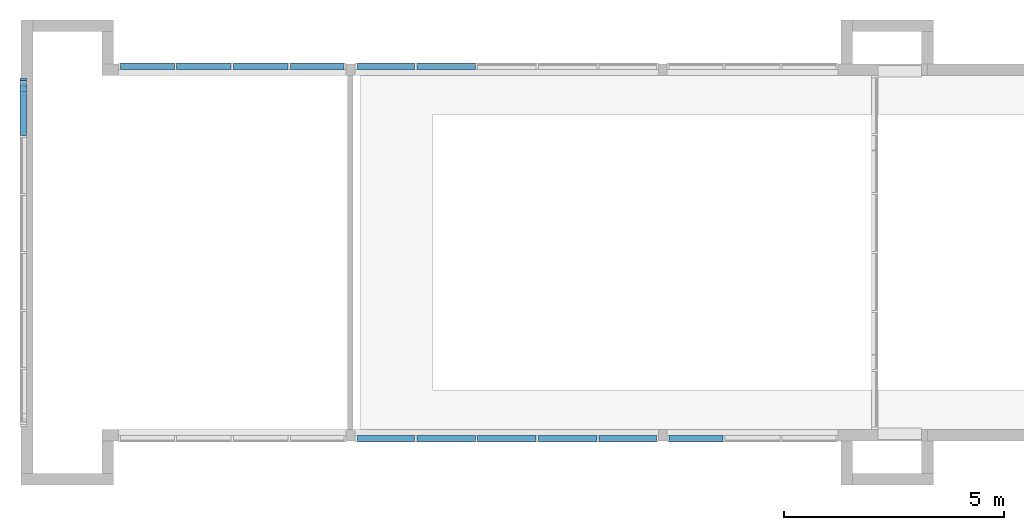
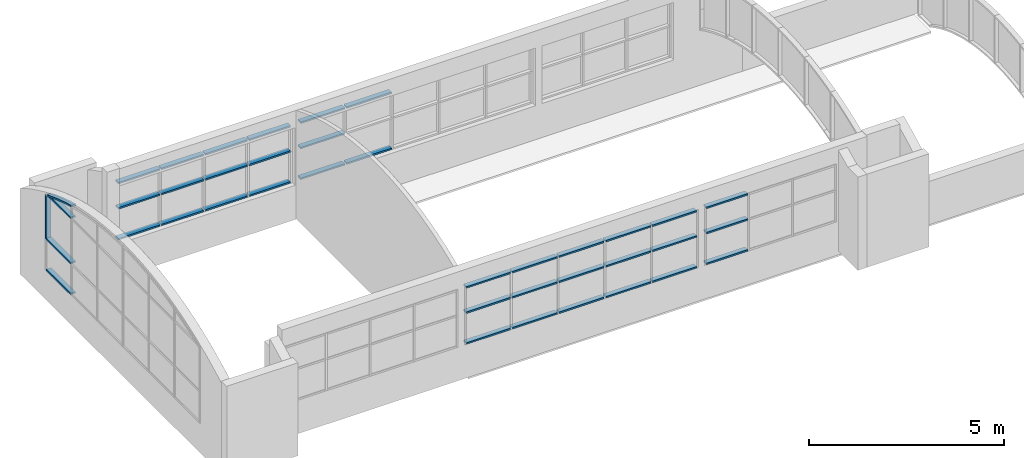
# One storey, part 2 of 14: 40 members, 5 elements without a shape of their own.
"""IFC2X3 building model written with IfcOpenShell, lengths in metres."""

from ifc_helpers import new_model, entity, si_unit, converted_unit, frame, frame_2d, origin, origin_2d_with_axis, place, context, project, spatial, polyline, circle_curve, parameter, trimmed, segment, composite_curve, rectangle, outline, extrude, source, transform, mapped, material, type_object, type_shapes, element, aggregate, save


model = new_model("IFC2X3")

# Units and contexts
model_context = context("Model", 3, precision=1e-09, world=origin())
plan_context = context("Plan", 3, precision=1e-09, world=origin())
ifc_project = project(units=[si_unit("LENGTHUNIT", "METRE"), si_unit("AREAUNIT", "SQUARE_METRE"), si_unit("VOLUMEUNIT", "CUBIC_METRE"), converted_unit("PLANEANGLEUNIT", "DEGREE", entity("IfcRatioMeasure", 0.01745329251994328), si_unit("PLANEANGLEUNIT", "RADIAN"), dimensions=[0, 0, 0, 0, 0, 0, 0]), si_unit("TIMEUNIT", "SECOND")], contexts=[model_context, plan_context])

# Site, building, storey
site_placement = place(None, origin())
site = spatial("IfcSite", under=ifc_project, at=site_placement, Name="Default", CompositionType="ELEMENT")
building_placement = place(site_placement, origin())
building = spatial("IfcBuilding", under=site, at=building_placement, CompositionType="ELEMENT")
storey_placement = place(building_placement, frame((0.0, 0.0, 9.25000000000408)))
storey = spatial("IfcBuildingStorey", under=building, at=storey_placement, Name="Roof - Main", CompositionType="ELEMENT", Elevation=9.25000000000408)

# Curtain wall, members
curtain_wall_1_placement = place(storey_placement, origin())
curtain_wall_1 = element("IfcCurtainWall", 1, at=curtain_wall_1_placement, inside=storey, Name="Curtain Wall:Storefront", ObjectType="Curtain Wall:Storefront")
ifc_material = material(Name="Metal - Aluminium")
member_type_1 = type_object("IfcMemberType", Name="50 x 150mm", PredefinedType="MULLION")
shared_shape_1 = source(origin(), model_context, "Body", "SweptSolid", [
    extrude(rectangle(XDim=0.05, YDim=0.15, at=origin_2d_with_axis()), frame((-0.025, 0.0, -1.244395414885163), z_axis=(0.0, 0.0, 1.0), x_axis=(-1.0, 0.0, 0.0)), (0.0, 0.0, 1.0), 1.244395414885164),
])
type_shapes(member_type_1, [shared_shape_1])
member_1_placement = place(storey_placement, frame((-40.99000000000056, 34.35879082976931, 1.067), z_axis=(0.0, -1.0, 0.0), x_axis=(0.0, 0.0, -1.0)))
member_1 = element("IfcMember", 2, at=member_1_placement, type_object=member_type_1, material=ifc_material, Name="Rectangular Mullion:50 x 150mm:50 x 150mm", ObjectType="50 x 150mm", context=model_context, shape_type="MappedRepresentation", body=[
    mapped(shared_shape_1, transform((0.0, 0.0, 0.0), scale=1.0)),
])
member_type_2 = type_object("IfcMemberType", Name="50 x 150mm", PredefinedType="MULLION")
shared_shape_2 = source(origin(), model_context, "Body", "SweptSolid", [
    extrude(outline(polyline([(-0.6772773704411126, -0.025), (0.6938774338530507, -0.025), (0.6606773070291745, 0.025), (-0.6772773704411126, 0.025), (-0.6772773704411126, -0.025)])), frame((-0.025, -0.07499999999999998, -0.6772773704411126), z_axis=(0.0, 1.0, 0.0), x_axis=(0.0, 0.0, -1.0)), (0.0, 0.0, 1.0), 0.15),
])
type_shapes(member_type_2, [shared_shape_2])
member_2_placement = place(storey_placement, frame((-40.99000000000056, 35.65318624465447, 2.053894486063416), z_axis=(0.0, 0.0, -1.0), x_axis=(0.0, 1.0, 0.0)))
member_2 = element("IfcMember", 3, at=member_2_placement, type_object=member_type_2, material=ifc_material, Name="Rectangular Mullion:50 x 150mm:50 x 150mm", ObjectType="50 x 150mm", context=model_context, shape_type="MappedRepresentation", body=[
    mapped(shared_shape_2, transform((0.0, 0.0, 0.0), scale=1.0)),
])
member_type_3 = type_object("IfcMemberType", Name="50 x 150mm", PredefinedType="MULLION")
shared_shape_3 = source(origin(), model_context, "Body", "SweptSolid", [
    extrude(rectangle(XDim=0.05, YDim=0.15, at=origin_2d_with_axis()), frame((0.0, 0.0, -1.244395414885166), z_axis=(0.0, 0.0, 1.0), x_axis=(-1.0, 0.0, 0.0)), (0.0, 0.0, 1.0), 1.244395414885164),
])
type_shapes(member_type_3, [shared_shape_3])
member_3_placement = place(storey_placement, frame((-40.99000000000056, 35.60318624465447, 2.053894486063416), z_axis=(0.0, 1.0, 0.0), x_axis=(0.0, 0.0, 1.0)))
member_3 = element("IfcMember", 4, at=member_3_placement, type_object=member_type_3, material=ifc_material, Name="Rectangular Mullion:50 x 150mm:50 x 150mm", ObjectType="50 x 150mm", context=model_context, shape_type="MappedRepresentation", body=[
    mapped(shared_shape_3, transform((0.0, 0.0, 0.0), scale=1.0)),
])
member_type_4 = type_object("IfcMemberType", Name="50 x 150mm", PredefinedType="MULLION")
shared_shape_4 = source(origin(), model_context, "Body", "SweptSolid", [
    extrude(outline(composite_curve([segment(polyline([(-0.4657523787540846, -0.02499999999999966), (0.5291810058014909, -0.02499999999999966)]), True, "CONTINUOUS"), segment(polyline([(0.5291810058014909, -0.02499999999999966), (0.5291810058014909, 0.02500000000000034)]), True, "CONTINUOUS"), segment(polyline([(0.5291810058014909, 0.02500000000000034), (-0.5926096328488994, 0.02500000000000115)]), True, "CONTINUOUS"), segment(trimmed(circle_curve(frame_2d((3.19297183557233, 9.443641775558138), x_axis=(-0.3781053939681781, -0.92576255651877)), 10.15093295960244), [parameter(0.3199800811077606)], [parameter(1.089627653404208)], True, "PARAMETER"), True, "CONTINUOUS")], self_intersect=False)), frame((0.0, -0.07500000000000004, -0.6640559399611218), z_axis=(0.0, 1.0, 0.0), x_axis=(0.0, 0.0, -1.0)), (0.0, 0.0, 1.0), 0.15),
])
type_shapes(member_type_4, [shared_shape_4])
member_4_placement = place(storey_placement, frame((-40.99000000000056, 35.55202777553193, 3.467000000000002), z_axis=(0.0, 1.0, 0.0), x_axis=(0.0, 0.0, 1.0)))
member_4 = element("IfcMember", 5, at=member_4_placement, type_object=member_type_4, material=ifc_material, Name="Rectangular Mullion:50 x 150mm:50 x 150mm", ObjectType="50 x 150mm", context=model_context, shape_type="MappedRepresentation", body=[
    mapped(shared_shape_4, transform((0.0, 0.0, 0.0), scale=1.0)),
])
member_type_5 = type_object("IfcMemberType", Name="50 x 150mm", PredefinedType="MULLION")
shared_shape_5 = source(origin(), model_context, "Body", "SweptSolid", [
    extrude(outline(composite_curve([segment(polyline([(-0.06539377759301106, -0.6398536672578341), (-0.01539377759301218, -0.639853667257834)]), True, "CONTINUOUS"), segment(trimmed(circle_curve(frame_2d((10.13553918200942, -0.6398536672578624), x_axis=(-0.9920609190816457, 0.1257582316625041)), 10.15093295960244), [parameter(3.562221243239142e-13)], [parameter(7.224544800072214)], True, "PARAMETER"), False, "CONTINUOUS"), segment(polyline([(0.06519530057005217, 0.6367097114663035), (0.01559225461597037, 0.6429976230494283)]), True, "CONTINUOUS"), segment(trimmed(circle_curve(frame_2d((10.13553918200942, -0.6398536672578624), x_axis=(-0.9920609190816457, 0.1257582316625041)), 10.20093295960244), [parameter(3.562221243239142e-13)], [parameter(7.224544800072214)], True, "PARAMETER"), True, "CONTINUOUS")], self_intersect=False)), frame((-0.06539377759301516, -0.075, -0.6398536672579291), z_axis=(0.0, 1.0, 0.0), x_axis=(-0.9920609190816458, 0.0, 0.1257582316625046)), (0.0, 0.0, 1.0), 0.1499999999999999),
])
type_shapes(member_type_5, [shared_shape_5])
member_5_placement = place(storey_placement, frame((-40.99000000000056, 35.55202777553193, 3.467000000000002), z_axis=(0.0, 0.9257625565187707, -0.3781053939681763), x_axis=(0.0, 0.3781053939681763, 0.9257625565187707)))
member_5 = element("IfcMember", 6, at=member_5_placement, type_object=member_type_5, material=ifc_material, Name="Rectangular Mullion:50 x 150mm:50 x 150mm", ObjectType="50 x 150mm", context=model_context, shape_type="MappedRepresentation", body=[
    mapped(shared_shape_5, transform((0.0, 0.0, 0.0), scale=1.0)),
])
aggregate(curtain_wall_1, [member_1, member_2, member_3, member_4, member_5])

curtain_wall_2_placement = place(storey_placement, origin())
curtain_wall_2 = element("IfcCurtainWall", 7, at=curtain_wall_2_placement, inside=storey, Name="Curtain Wall:Storefront", ObjectType="Curtain Wall:Storefront")
member_type_6 = type_object("IfcMemberType", Name="50 x 150mm", PredefinedType="MULLION")
shared_shape_6 = source(origin(), model_context, "Body", "SweptSolid", [
    extrude(rectangle(XDim=0.05, YDim=0.15, at=origin_2d_with_axis()), frame((-0.025, 0.0, -1.22), z_axis=(0.0, 0.0, 1.0), x_axis=(-1.0, 0.0, 0.0)), (0.0, 0.0, 1.0), 1.22),
])
type_shapes(member_type_6, [shared_shape_6])
member_6_placement = place(storey_placement, frame((-37.55600000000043, 35.9349039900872, 2.867), z_axis=(1.0, 0.0, 0.0), x_axis=(0.0, 0.0, 1.0)))
member_6 = element("IfcMember", 8, at=member_6_placement, type_object=member_type_6, material=ifc_material, Name="Rectangular Mullion:50 x 150mm:50 x 150mm", ObjectType="50 x 150mm", context=model_context, shape_type="MappedRepresentation", body=[
    mapped(shared_shape_6, transform((0.0, 0.0, 0.0), scale=1.0)),
])
member_7_placement = place(storey_placement, frame((-33.69600000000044, 35.93490399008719, 2.867), z_axis=(1.0, 0.0, 0.0), x_axis=(0.0, 0.0, 1.0)))
member_7 = element("IfcMember", 9, at=member_7_placement, type_object=member_type_6, material=ifc_material, Name="Rectangular Mullion:50 x 150mm:50 x 150mm", ObjectType="50 x 150mm", context=model_context, shape_type="MappedRepresentation", body=[
    mapped(shared_shape_6, transform((0.0, 0.0, 0.0), scale=1.0)),
])
member_type_7 = type_object("IfcMemberType", Name="50 x 150mm", PredefinedType="MULLION")
shared_shape_7 = source(origin(), model_context, "Body", "SweptSolid", [
    extrude(rectangle(XDim=0.05, YDim=0.15, at=origin_2d_with_axis()), frame((-0.025, 0.0, -1.245), z_axis=(0.0, 0.0, 1.0), x_axis=(-1.0, 0.0, 0.0)), (0.0, 0.0, 1.0), 1.245),
])
type_shapes(member_type_7, [shared_shape_7])
member_8_placement = place(storey_placement, frame((-36.26100000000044, 35.93490399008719, 2.867), z_axis=(1.0, 0.0, 0.0), x_axis=(0.0, 0.0, 1.0)))
member_8 = element("IfcMember", 10, at=member_8_placement, type_object=member_type_7, material=ifc_material, Name="Rectangular Mullion:50 x 150mm:50 x 150mm", ObjectType="50 x 150mm", context=model_context, shape_type="MappedRepresentation", body=[
    mapped(shared_shape_7, transform((0.0, 0.0, 0.0), scale=1.0)),
])
member_9_placement = place(storey_placement, frame((-34.96600000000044, 35.93490399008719, 2.867), z_axis=(1.0, 0.0, 0.0), x_axis=(0.0, 0.0, 1.0)))
member_9 = element("IfcMember", 11, at=member_9_placement, type_object=member_type_7, material=ifc_material, Name="Rectangular Mullion:50 x 150mm:50 x 150mm", ObjectType="50 x 150mm", context=model_context, shape_type="MappedRepresentation", body=[
    mapped(shared_shape_7, transform((0.0, 0.0, 0.0), scale=1.0)),
])
member_type_8 = type_object("IfcMemberType", Name="50 x 150mm", PredefinedType="MULLION")
shared_shape_8 = source(origin(), model_context, "Body", "SweptSolid", [
    extrude(rectangle(XDim=0.05, YDim=0.15, at=origin_2d_with_axis()), frame((-0.025, 0.0, -1.22), z_axis=(0.0, 0.0, 1.0), x_axis=(-1.0, 0.0, 0.0)), (0.0, 0.0, 1.0), 1.22),
])
type_shapes(member_type_8, [shared_shape_8])
member_10_placement = place(storey_placement, frame((-38.77600000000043, 35.93490399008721, 1.067), z_axis=(-1.0, 0.0, 0.0), x_axis=(0.0, 0.0, -1.0)))
member_10 = element("IfcMember", 12, at=member_10_placement, type_object=member_type_8, material=ifc_material, Name="Rectangular Mullion:50 x 150mm:50 x 150mm", ObjectType="50 x 150mm", context=model_context, shape_type="MappedRepresentation", body=[
    mapped(shared_shape_8, transform((0.0, 0.0, 0.0), scale=1.0)),
])
member_11_placement = place(storey_placement, frame((-34.91600000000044, 35.93490399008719, 1.067), z_axis=(-1.0, 0.0, 0.0), x_axis=(0.0, 0.0, -1.0)))
member_11 = element("IfcMember", 13, at=member_11_placement, type_object=member_type_8, material=ifc_material, Name="Rectangular Mullion:50 x 150mm:50 x 150mm", ObjectType="50 x 150mm", context=model_context, shape_type="MappedRepresentation", body=[
    mapped(shared_shape_8, transform((0.0, 0.0, 0.0), scale=1.0)),
])
member_type_9 = type_object("IfcMemberType", Name="50 x 150mm", PredefinedType="MULLION")
shared_shape_9 = source(origin(), model_context, "Body", "SweptSolid", [
    extrude(rectangle(XDim=0.05, YDim=0.15, at=origin_2d_with_axis()), frame((-0.025, 0.0, -1.245000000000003), z_axis=(0.0, 0.0, 1.0), x_axis=(-1.0, 0.0, 0.0)), (0.0, 0.0, 1.0), 1.245),
])
type_shapes(member_type_9, [shared_shape_9])
member_12_placement = place(storey_placement, frame((-37.50600000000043, 35.9349039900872, 1.067), z_axis=(-1.0, 0.0, 0.0), x_axis=(0.0, 0.0, -1.0)))
member_12 = element("IfcMember", 14, at=member_12_placement, type_object=member_type_9, material=ifc_material, Name="Rectangular Mullion:50 x 150mm:50 x 150mm", ObjectType="50 x 150mm", context=model_context, shape_type="MappedRepresentation", body=[
    mapped(shared_shape_9, transform((0.0, 0.0, 0.0), scale=1.0)),
])
member_13_placement = place(storey_placement, frame((-36.21100000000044, 35.93490399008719, 1.067), z_axis=(-1.0, 0.0, 0.0), x_axis=(0.0, 0.0, -1.0)))
member_13 = element("IfcMember", 15, at=member_13_placement, type_object=member_type_9, material=ifc_material, Name="Rectangular Mullion:50 x 150mm:50 x 150mm", ObjectType="50 x 150mm", context=model_context, shape_type="MappedRepresentation", body=[
    mapped(shared_shape_9, transform((0.0, 0.0, 0.0), scale=1.0)),
])
member_type_10 = type_object("IfcMemberType", Name="50 x 150mm", PredefinedType="MULLION")
shared_shape_10 = source(origin(), model_context, "Body", "SweptSolid", [
    extrude(rectangle(XDim=0.05, YDim=0.15, at=origin_2d_with_axis()), frame((0.0, 0.0, -1.22), z_axis=(0.0, 0.0, 1.0), x_axis=(-1.0, 0.0, 0.0)), (0.0, 0.0, 1.0), 1.22),
])
type_shapes(member_type_10, [shared_shape_10])
member_14_placement = place(storey_placement, frame((-37.55600000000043, 35.9349039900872, 2.053894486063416), z_axis=(1.0, 0.0, 0.0), x_axis=(0.0, 0.0, 1.0)))
member_14 = element("IfcMember", 16, at=member_14_placement, type_object=member_type_10, material=ifc_material, Name="Rectangular Mullion:50 x 150mm:50 x 150mm", ObjectType="50 x 150mm", context=model_context, shape_type="MappedRepresentation", body=[
    mapped(shared_shape_10, transform((0.0, 0.0, 0.0), scale=1.0)),
])
member_15_placement = place(storey_placement, frame((-33.69600000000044, 35.93490399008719, 2.053894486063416), z_axis=(1.0, 0.0, 0.0), x_axis=(0.0, 0.0, 1.0)))
member_15 = element("IfcMember", 17, at=member_15_placement, type_object=member_type_10, material=ifc_material, Name="Rectangular Mullion:50 x 150mm:50 x 150mm", ObjectType="50 x 150mm", context=model_context, shape_type="MappedRepresentation", body=[
    mapped(shared_shape_10, transform((0.0, 0.0, 0.0), scale=1.0)),
])
member_type_11 = type_object("IfcMemberType", Name="50 x 150mm", PredefinedType="MULLION")
shared_shape_11 = source(origin(), model_context, "Body", "SweptSolid", [
    extrude(rectangle(XDim=0.05, YDim=0.15, at=origin_2d_with_axis()), frame((0.0, 0.0, -1.245), z_axis=(0.0, 0.0, 1.0), x_axis=(-1.0, 0.0, 0.0)), (0.0, 0.0, 1.0), 1.245),
])
type_shapes(member_type_11, [shared_shape_11])
member_16_placement = place(storey_placement, frame((-36.26100000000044, 35.93490399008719, 2.053894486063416), z_axis=(1.0, 0.0, 0.0), x_axis=(0.0, 0.0, 1.0)))
member_16 = element("IfcMember", 18, at=member_16_placement, type_object=member_type_11, material=ifc_material, Name="Rectangular Mullion:50 x 150mm:50 x 150mm", ObjectType="50 x 150mm", context=model_context, shape_type="MappedRepresentation", body=[
    mapped(shared_shape_11, transform((0.0, 0.0, 0.0), scale=1.0)),
])
member_17_placement = place(storey_placement, frame((-34.96600000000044, 35.93490399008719, 2.053894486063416), z_axis=(1.0, 0.0, 0.0), x_axis=(0.0, 0.0, 1.0)))
member_17 = element("IfcMember", 19, at=member_17_placement, type_object=member_type_11, material=ifc_material, Name="Rectangular Mullion:50 x 150mm:50 x 150mm", ObjectType="50 x 150mm", context=model_context, shape_type="MappedRepresentation", body=[
    mapped(shared_shape_11, transform((0.0, 0.0, 0.0), scale=1.0)),
])
aggregate(curtain_wall_2, [member_6, member_8, member_9, member_10, member_12, member_13, member_11, member_14, member_16, member_17, member_15, member_7])

curtain_wall_3_placement = place(storey_placement, origin())
curtain_wall_3 = element("IfcCurtainWall", 20, at=curtain_wall_3_placement, inside=storey, Name="Curtain Wall:Storefront", ObjectType="Curtain Wall:Storefront")
member_type_12 = type_object("IfcMemberType", Name="50 x 150mm", PredefinedType="MULLION")
shared_shape_12 = source(origin(), model_context, "Body", "SweptSolid", [
    extrude(rectangle(XDim=0.05, YDim=0.15, at=origin_2d_with_axis()), frame((-0.025, 0.0, -1.306000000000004), z_axis=(0.0, 0.0, 1.0), x_axis=(-1.0, 0.0, 0.0)), (0.0, 0.0, 1.0), 1.306000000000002),
])
type_shapes(member_type_12, [shared_shape_12])
member_18_placement = place(storey_placement, frame((-32.08800000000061, 35.93490399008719, 2.867), z_axis=(1.0, 0.0, 0.0), x_axis=(0.0, 0.0, 1.0)))
member_18 = element("IfcMember", 21, at=member_18_placement, type_object=member_type_12, material=ifc_material, Name="Rectangular Mullion:50 x 150mm:50 x 150mm", ObjectType="50 x 150mm", context=model_context, shape_type="MappedRepresentation", body=[
    mapped(shared_shape_12, transform((0.0, 0.0, 0.0), scale=1.0)),
])
member_type_13 = type_object("IfcMemberType", Name="50 x 150mm", PredefinedType="MULLION")
shared_shape_13 = source(origin(), model_context, "Body", "SweptSolid", [
    extrude(rectangle(XDim=0.05, YDim=0.15, at=origin_2d_with_axis()), frame((-0.025, 0.0, -1.330999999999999), z_axis=(0.0, 0.0, 1.0), x_axis=(-1.0, 0.0, 0.0)), (0.0, 0.0, 1.0), 1.330999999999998),
])
type_shapes(member_type_13, [shared_shape_13])
member_19_placement = place(storey_placement, frame((-30.70700000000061, 35.93490399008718, 2.867), z_axis=(1.0, 0.0, 0.0), x_axis=(0.0, 0.0, 1.0)))
member_19 = element("IfcMember", 22, at=member_19_placement, type_object=member_type_13, material=ifc_material, Name="Rectangular Mullion:50 x 150mm:50 x 150mm", ObjectType="50 x 150mm", context=model_context, shape_type="MappedRepresentation", body=[
    mapped(shared_shape_13, transform((0.0, 0.0, 0.0), scale=1.0)),
])
member_type_14 = type_object("IfcMemberType", Name="50 x 150mm", PredefinedType="MULLION")
shared_shape_14 = source(origin(), model_context, "Body", "SweptSolid", [
    extrude(rectangle(XDim=0.05, YDim=0.15, at=origin_2d_with_axis()), frame((-0.025, 0.0, -1.330999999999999), z_axis=(0.0, 0.0, 1.0), x_axis=(-1.0, 0.0, 0.0)), (0.0, 0.0, 1.0), 1.330999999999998),
])
type_shapes(member_type_14, [shared_shape_14])
member_20_placement = place(storey_placement, frame((-32.03800000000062, 35.93490399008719, 1.067), z_axis=(-1.0, 0.0, 0.0), x_axis=(0.0, 0.0, -1.0)))
member_20 = element("IfcMember", 23, at=member_20_placement, type_object=member_type_14, material=ifc_material, Name="Rectangular Mullion:50 x 150mm:50 x 150mm", ObjectType="50 x 150mm", context=model_context, shape_type="MappedRepresentation", body=[
    mapped(shared_shape_14, transform((0.0, 0.0, 0.0), scale=1.0)),
])
member_type_15 = type_object("IfcMemberType", Name="50 x 150mm", PredefinedType="MULLION")
shared_shape_15 = source(origin(), model_context, "Body", "SweptSolid", [
    extrude(rectangle(XDim=0.05, YDim=0.15, at=origin_2d_with_axis()), frame((-0.025, 0.0, -1.305999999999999), z_axis=(0.0, 0.0, 1.0), x_axis=(-1.0, 0.0, 0.0)), (0.0, 0.0, 1.0), 1.305999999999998),
])
type_shapes(member_type_15, [shared_shape_15])
member_21_placement = place(storey_placement, frame((-33.39400000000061, 35.93490399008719, 1.067), z_axis=(-1.0, 0.0, 0.0), x_axis=(0.0, 0.0, -1.0)))
member_21 = element("IfcMember", 24, at=member_21_placement, type_object=member_type_15, material=ifc_material, Name="Rectangular Mullion:50 x 150mm:50 x 150mm", ObjectType="50 x 150mm", context=model_context, shape_type="MappedRepresentation", body=[
    mapped(shared_shape_15, transform((0.0, 0.0, 0.0), scale=1.0)),
])
member_type_16 = type_object("IfcMemberType", Name="50 x 150mm", PredefinedType="MULLION")
shared_shape_16 = source(origin(), model_context, "Body", "SweptSolid", [
    extrude(rectangle(XDim=0.05, YDim=0.15, at=origin_2d_with_axis()), frame((0.0, 0.0, -1.305999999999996), z_axis=(0.0, 0.0, 1.0), x_axis=(-1.0, 0.0, 0.0)), (0.0, 0.0, 1.0), 1.305999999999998),
])
type_shapes(member_type_16, [shared_shape_16])
member_22_placement = place(storey_placement, frame((-32.08800000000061, 35.93490399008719, 2.053894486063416), z_axis=(1.0, 0.0, 0.0), x_axis=(0.0, 0.0, 1.0)))
member_22 = element("IfcMember", 25, at=member_22_placement, type_object=member_type_16, material=ifc_material, Name="Rectangular Mullion:50 x 150mm:50 x 150mm", ObjectType="50 x 150mm", context=model_context, shape_type="MappedRepresentation", body=[
    mapped(shared_shape_16, transform((0.0, 0.0, 0.0), scale=1.0)),
])
aggregate(curtain_wall_3, [member_18, member_19, member_20, member_21, member_22])

curtain_wall_4_placement = place(storey_placement, origin())
curtain_wall_4 = element("IfcCurtainWall", 26, at=curtain_wall_4_placement, inside=storey, Name="Curtain Wall:Storefront", ObjectType="Curtain Wall:Storefront")
member_type_17 = type_object("IfcMemberType", Name="50 x 150mm", PredefinedType="MULLION")
shared_shape_17 = source(origin(), model_context, "Body", "SweptSolid", [
    extrude(rectangle(XDim=0.05, YDim=0.15, at=origin_2d_with_axis()), frame((-0.025, 0.0, -1.221666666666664), z_axis=(0.0, 0.0, 1.0), x_axis=(-1.0, 0.0, 0.0)), (0.0, 0.0, 1.0), 1.221666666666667),
])
type_shapes(member_type_17, [shared_shape_17])
member_23_placement = place(storey_placement, frame((-25.07833333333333, 27.45559600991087, 2.867), z_axis=(1.0, 0.0, 0.0), x_axis=(0.0, 0.0, 1.0)))
member_23 = element("IfcMember", 27, at=member_23_placement, type_object=member_type_17, material=ifc_material, Name="Rectangular Mullion:50 x 150mm:50 x 150mm", ObjectType="50 x 150mm", context=model_context, shape_type="MappedRepresentation", body=[
    mapped(shared_shape_17, transform((0.0, 0.0, 0.0), scale=1.0)),
])
member_type_18 = type_object("IfcMemberType", Name="50 x 150mm", PredefinedType="MULLION")
shared_shape_18 = source(origin(), model_context, "Body", "SweptSolid", [
    extrude(rectangle(XDim=0.05, YDim=0.15, at=origin_2d_with_axis()), frame((-0.025, 0.0, -1.221666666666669), z_axis=(0.0, 0.0, 1.0), x_axis=(-1.0, 0.0, 0.0)), (0.0, 0.0, 1.0), 1.221666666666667),
])
type_shapes(member_type_18, [shared_shape_18])
member_24_placement = place(storey_placement, frame((-26.29999999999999, 27.45559600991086, 1.067), z_axis=(-1.0, 0.0, 0.0), x_axis=(0.0, 0.0, -1.0)))
member_24 = element("IfcMember", 28, at=member_24_placement, type_object=member_type_18, material=ifc_material, Name="Rectangular Mullion:50 x 150mm:50 x 150mm", ObjectType="50 x 150mm", context=model_context, shape_type="MappedRepresentation", body=[
    mapped(shared_shape_18, transform((0.0, 0.0, 0.0), scale=1.0)),
])
member_type_19 = type_object("IfcMemberType", Name="50 x 150mm", PredefinedType="MULLION")
shared_shape_19 = source(origin(), model_context, "Body", "SweptSolid", [
    extrude(rectangle(XDim=0.05, YDim=0.15, at=origin_2d_with_axis()), frame((0.0, 0.0, -1.221666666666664), z_axis=(0.0, 0.0, 1.0), x_axis=(-1.0, 0.0, 0.0)), (0.0, 0.0, 1.0), 1.221666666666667),
])
type_shapes(member_type_19, [shared_shape_19])
member_25_placement = place(storey_placement, frame((-25.07833333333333, 27.45559600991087, 2.053894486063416), z_axis=(1.0, 0.0, 0.0), x_axis=(0.0, 0.0, 1.0)))
member_25 = element("IfcMember", 29, at=member_25_placement, type_object=member_type_19, material=ifc_material, Name="Rectangular Mullion:50 x 150mm:50 x 150mm", ObjectType="50 x 150mm", context=model_context, shape_type="MappedRepresentation", body=[
    mapped(shared_shape_19, transform((0.0, 0.0, 0.0), scale=1.0)),
])
aggregate(curtain_wall_4, [member_23, member_24, member_25])

curtain_wall_5_placement = place(storey_placement, origin())
curtain_wall_5 = element("IfcCurtainWall", 30, at=curtain_wall_5_placement, inside=storey, Name="Curtain Wall:Storefront", ObjectType="Curtain Wall:Storefront")
member_type_20 = type_object("IfcMemberType", Name="50 x 150mm", PredefinedType="MULLION")
shared_shape_20 = source(origin(), model_context, "Body", "SweptSolid", [
    extrude(rectangle(XDim=0.05, YDim=0.15, at=origin_2d_with_axis()), frame((-0.025, 0.0, -1.306000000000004), z_axis=(0.0, 0.0, 1.0), x_axis=(-1.0, 0.0, 0.0)), (0.0, 0.0, 1.0), 1.306000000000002),
])
type_shapes(member_type_20, [shared_shape_20])
member_26_placement = place(storey_placement, frame((-32.08800000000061, 27.45559600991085, 2.867), z_axis=(1.0, 0.0, 0.0), x_axis=(0.0, 0.0, 1.0)))
member_26 = element("IfcMember", 31, at=member_26_placement, type_object=member_type_20, material=ifc_material, Name="Rectangular Mullion:50 x 150mm:50 x 150mm", ObjectType="50 x 150mm", context=model_context, shape_type="MappedRepresentation", body=[
    mapped(shared_shape_20, transform((0.0, 0.0, 0.0), scale=1.0)),
])
member_27_placement = place(storey_placement, frame((-26.58900000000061, 27.45559600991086, 2.867), z_axis=(1.0, 0.0, 0.0), x_axis=(0.0, 0.0, 1.0)))
member_27 = element("IfcMember", 32, at=member_27_placement, type_object=member_type_20, material=ifc_material, Name="Rectangular Mullion:50 x 150mm:50 x 150mm", ObjectType="50 x 150mm", context=model_context, shape_type="MappedRepresentation", body=[
    mapped(shared_shape_20, transform((0.0, 0.0, 0.0), scale=1.0)),
])
member_type_21 = type_object("IfcMemberType", Name="50 x 150mm", PredefinedType="MULLION")
shared_shape_21 = source(origin(), model_context, "Body", "SweptSolid", [
    extrude(rectangle(XDim=0.05, YDim=0.15, at=origin_2d_with_axis()), frame((-0.025, 0.0, -1.331), z_axis=(0.0, 0.0, 1.0), x_axis=(-1.0, 0.0, 0.0)), (0.0, 0.0, 1.0), 1.330999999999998),
])
type_shapes(member_type_21, [shared_shape_21])
member_28_placement = place(storey_placement, frame((-30.70700000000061, 27.45559600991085, 2.867), z_axis=(1.0, 0.0, 0.0), x_axis=(0.0, 0.0, 1.0)))
member_28 = element("IfcMember", 33, at=member_28_placement, type_object=member_type_21, material=ifc_material, Name="Rectangular Mullion:50 x 150mm:50 x 150mm", ObjectType="50 x 150mm", context=model_context, shape_type="MappedRepresentation", body=[
    mapped(shared_shape_21, transform((0.0, 0.0, 0.0), scale=1.0)),
])
member_29_placement = place(storey_placement, frame((-29.32600000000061, 27.45559600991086, 2.867), z_axis=(1.0, 0.0, 0.0), x_axis=(0.0, 0.0, 1.0)))
member_29 = element("IfcMember", 34, at=member_29_placement, type_object=member_type_21, material=ifc_material, Name="Rectangular Mullion:50 x 150mm:50 x 150mm", ObjectType="50 x 150mm", context=model_context, shape_type="MappedRepresentation", body=[
    mapped(shared_shape_21, transform((0.0, 0.0, 0.0), scale=1.0)),
])
member_30_placement = place(storey_placement, frame((-27.94500000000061, 27.45559600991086, 2.867), z_axis=(1.0, 0.0, 0.0), x_axis=(0.0, 0.0, 1.0)))
member_30 = element("IfcMember", 35, at=member_30_placement, type_object=member_type_21, material=ifc_material, Name="Rectangular Mullion:50 x 150mm:50 x 150mm", ObjectType="50 x 150mm", context=model_context, shape_type="MappedRepresentation", body=[
    mapped(shared_shape_21, transform((0.0, 0.0, 0.0), scale=1.0)),
])
member_type_22 = type_object("IfcMemberType", Name="50 x 150mm", PredefinedType="MULLION")
shared_shape_22 = source(origin(), model_context, "Body", "SweptSolid", [
    extrude(rectangle(XDim=0.05, YDim=0.15, at=origin_2d_with_axis()), frame((-0.025, 0.0, -1.330999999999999), z_axis=(0.0, 0.0, 1.0), x_axis=(-1.0, 0.0, 0.0)), (0.0, 0.0, 1.0), 1.330999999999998),
])
type_shapes(member_type_22, [shared_shape_22])
member_31_placement = place(storey_placement, frame((-32.03800000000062, 27.45559600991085, 1.067), z_axis=(-1.0, 0.0, 0.0), x_axis=(0.0, 0.0, -1.0)))
member_31 = element("IfcMember", 36, at=member_31_placement, type_object=member_type_22, material=ifc_material, Name="Rectangular Mullion:50 x 150mm:50 x 150mm", ObjectType="50 x 150mm", context=model_context, shape_type="MappedRepresentation", body=[
    mapped(shared_shape_22, transform((0.0, 0.0, 0.0), scale=1.0)),
])
member_32_placement = place(storey_placement, frame((-30.65700000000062, 27.45559600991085, 1.067), z_axis=(-1.0, 0.0, 0.0), x_axis=(0.0, 0.0, -1.0)))
member_32 = element("IfcMember", 37, at=member_32_placement, type_object=member_type_22, material=ifc_material, Name="Rectangular Mullion:50 x 150mm:50 x 150mm", ObjectType="50 x 150mm", context=model_context, shape_type="MappedRepresentation", body=[
    mapped(shared_shape_22, transform((0.0, 0.0, 0.0), scale=1.0)),
])
member_33_placement = place(storey_placement, frame((-29.27600000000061, 27.45559600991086, 1.067), z_axis=(-1.0, 0.0, 0.0), x_axis=(0.0, 0.0, -1.0)))
member_33 = element("IfcMember", 38, at=member_33_placement, type_object=member_type_22, material=ifc_material, Name="Rectangular Mullion:50 x 150mm:50 x 150mm", ObjectType="50 x 150mm", context=model_context, shape_type="MappedRepresentation", body=[
    mapped(shared_shape_22, transform((0.0, 0.0, 0.0), scale=1.0)),
])
member_type_23 = type_object("IfcMemberType", Name="50 x 150mm", PredefinedType="MULLION")
shared_shape_23 = source(origin(), model_context, "Body", "SweptSolid", [
    extrude(rectangle(XDim=0.05, YDim=0.15, at=origin_2d_with_axis()), frame((-0.025, 0.0, -1.305999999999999), z_axis=(0.0, 0.0, 1.0), x_axis=(-1.0, 0.0, 0.0)), (0.0, 0.0, 1.0), 1.305999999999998),
])
type_shapes(member_type_23, [shared_shape_23])
member_34_placement = place(storey_placement, frame((-27.89500000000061, 27.45559600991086, 1.067), z_axis=(-1.0, 0.0, 0.0), x_axis=(0.0, 0.0, -1.0)))
member_34 = element("IfcMember", 39, at=member_34_placement, type_object=member_type_23, material=ifc_material, Name="Rectangular Mullion:50 x 150mm:50 x 150mm", ObjectType="50 x 150mm", context=model_context, shape_type="MappedRepresentation", body=[
    mapped(shared_shape_23, transform((0.0, 0.0, 0.0), scale=1.0)),
])
member_35_placement = place(storey_placement, frame((-33.39400000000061, 27.45559600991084, 1.067), z_axis=(-1.0, 0.0, 0.0), x_axis=(0.0, 0.0, -1.0)))
member_35 = element("IfcMember", 40, at=member_35_placement, type_object=member_type_23, material=ifc_material, Name="Rectangular Mullion:50 x 150mm:50 x 150mm", ObjectType="50 x 150mm", context=model_context, shape_type="MappedRepresentation", body=[
    mapped(shared_shape_23, transform((0.0, 0.0, 0.0), scale=1.0)),
])
member_type_24 = type_object("IfcMemberType", Name="50 x 150mm", PredefinedType="MULLION")
shared_shape_24 = source(origin(), model_context, "Body", "SweptSolid", [
    extrude(rectangle(XDim=0.05, YDim=0.15, at=origin_2d_with_axis()), frame((0.0, 0.0, -1.331), z_axis=(0.0, 0.0, 1.0), x_axis=(-1.0, 0.0, 0.0)), (0.0, 0.0, 1.0), 1.330999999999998),
])
type_shapes(member_type_24, [shared_shape_24])
member_36_placement = place(storey_placement, frame((-30.70700000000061, 27.45559600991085, 2.053894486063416), z_axis=(1.0, 0.0, 0.0), x_axis=(0.0, 0.0, 1.0)))
member_36 = element("IfcMember", 41, at=member_36_placement, type_object=member_type_24, material=ifc_material, Name="Rectangular Mullion:50 x 150mm:50 x 150mm", ObjectType="50 x 150mm", context=model_context, shape_type="MappedRepresentation", body=[
    mapped(shared_shape_24, transform((0.0, 0.0, 0.0), scale=1.0)),
])
member_37_placement = place(storey_placement, frame((-29.32600000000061, 27.45559600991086, 2.053894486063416), z_axis=(1.0, 0.0, 0.0), x_axis=(0.0, 0.0, 1.0)))
member_37 = element("IfcMember", 42, at=member_37_placement, type_object=member_type_24, material=ifc_material, Name="Rectangular Mullion:50 x 150mm:50 x 150mm", ObjectType="50 x 150mm", context=model_context, shape_type="MappedRepresentation", body=[
    mapped(shared_shape_24, transform((0.0, 0.0, 0.0), scale=1.0)),
])
member_38_placement = place(storey_placement, frame((-27.94500000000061, 27.45559600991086, 2.053894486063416), z_axis=(1.0, 0.0, 0.0), x_axis=(0.0, 0.0, 1.0)))
member_38 = element("IfcMember", 43, at=member_38_placement, type_object=member_type_24, material=ifc_material, Name="Rectangular Mullion:50 x 150mm:50 x 150mm", ObjectType="50 x 150mm", context=model_context, shape_type="MappedRepresentation", body=[
    mapped(shared_shape_24, transform((0.0, 0.0, 0.0), scale=1.0)),
])
member_type_25 = type_object("IfcMemberType", Name="50 x 150mm", PredefinedType="MULLION")
shared_shape_25 = source(origin(), model_context, "Body", "SweptSolid", [
    extrude(rectangle(XDim=0.05, YDim=0.15, at=origin_2d_with_axis()), frame((0.0, 0.0, -1.305999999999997), z_axis=(0.0, 0.0, 1.0), x_axis=(-1.0, 0.0, 0.0)), (0.0, 0.0, 1.0), 1.305999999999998),
])
type_shapes(member_type_25, [shared_shape_25])
member_39_placement = place(storey_placement, frame((-26.58900000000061, 27.45559600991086, 2.053894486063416), z_axis=(1.0, 0.0, 0.0), x_axis=(0.0, 0.0, 1.0)))
member_39 = element("IfcMember", 44, at=member_39_placement, type_object=member_type_25, material=ifc_material, Name="Rectangular Mullion:50 x 150mm:50 x 150mm", ObjectType="50 x 150mm", context=model_context, shape_type="MappedRepresentation", body=[
    mapped(shared_shape_25, transform((0.0, 0.0, 0.0), scale=1.0)),
])
member_40_placement = place(storey_placement, frame((-32.08800000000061, 27.45559600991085, 2.053894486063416), z_axis=(1.0, 0.0, 0.0), x_axis=(0.0, 0.0, 1.0)))
member_40 = element("IfcMember", 45, at=member_40_placement, type_object=member_type_25, material=ifc_material, Name="Rectangular Mullion:50 x 150mm:50 x 150mm", ObjectType="50 x 150mm", context=model_context, shape_type="MappedRepresentation", body=[
    mapped(shared_shape_25, transform((0.0, 0.0, 0.0), scale=1.0)),
])
aggregate(curtain_wall_5, [member_26, member_28, member_29, member_30, member_31, member_32, member_33, member_34, member_36, member_37, member_38, member_39, member_27, member_35, member_40])

save(model, "model.ifc")
